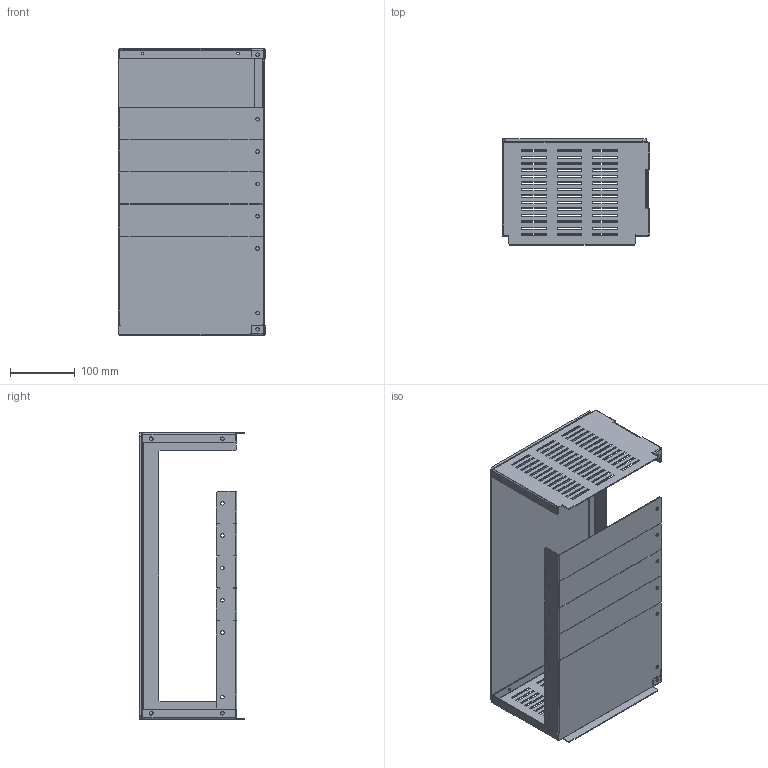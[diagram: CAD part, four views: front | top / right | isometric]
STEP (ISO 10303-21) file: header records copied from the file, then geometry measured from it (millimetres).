
FILE_DESCRIPTION(('CAx-IF Rec.Pracs.---Model Styling and Organization---1.2---2011-12-15','CAx-IF Rec.Pracs.---Geometric and Assembly Validation Properties---4.1---2014-06-16','CAx-IF Rec.Pracs.---PMI Polyline Presentation---2.0---2013-05-24'),'2;1');
FILE_NAME('R5M2W9MRB4.stp','2021-05-05T13:09:47+03:00',(''),(''),'STEP Interface 4.4 by CT CoreTechnologie','3D_Evolution4.4 by CT CoreTechnologie','');
FILE_SCHEMA(('AUTOMOTIVE_DESIGN { 1 0 10303 214 1 1 1 1 }'));
Length unit declared in the file: millimetre
Products named in the file (6): R5M2W9MRB4; RB.1461.00.00.0_-05; RB.1469.00.00.0_-00; RB.1462.00.00.0_-05; RB.1469.00.00.0_-01; RB.1473.00.00.0_-00
Assembly tree (5 placements, depth 2):
  R5M2W9MRB4
    RB.1461.00.00.0_-05
    RB.1469.00.00.0_-00
    RB.1462.00.00.0_-05
    RB.1469.00.00.0_-01
    RB.1473.00.00.0_-00
Bounding box: 228 x 164 x 443 mm (x, y, z)
Surface area: 588516 mm2 (no closed solid volume)
Topology: 0 solids, 5 shells, 728 faces, 2102 edges, 1376 vertices
Faces by surface type: plane 638, cylinder 88, bspline 2
Entity records: 24338 total; most frequent: CARTESIAN_POINT 4315, ORIENTED_EDGE 4204, DIRECTION 3739, EDGE_CURVE 2102, VECTOR 1923, LINE 1923, VERTEX_POINT 1376, EDGE_LOOP 980
